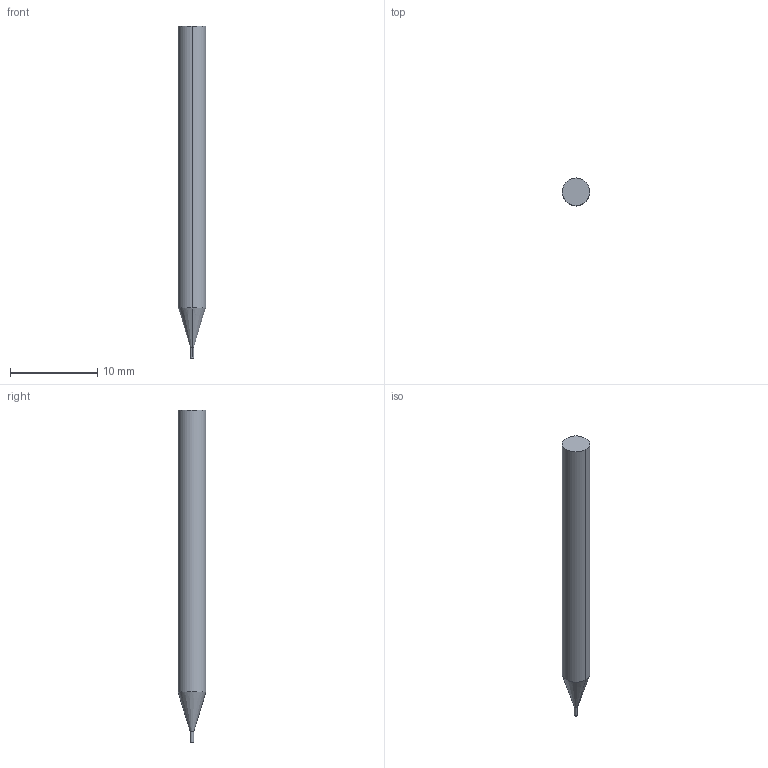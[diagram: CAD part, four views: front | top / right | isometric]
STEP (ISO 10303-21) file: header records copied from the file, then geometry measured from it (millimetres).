
FILE_DESCRIPTION((' '),'2;1');
FILE_NAME( '3MVR0156AH.stp', '2026-01-21T19:04:56', (' '), ('--- Datakit www.datakit.com---'), ' Datakit CrossCadWare V2025.4 Sep 19 2025', 'Mastercam 2027', ' ');
FILE_SCHEMA(('AUTOMOTIVE_DESIGN { 1 0 10303 214 1 1 1 1 }'));
Length unit declared in the file: inch
Products named in the file (1): 3MVR0156AH
Bounding box: 3.17 x 3.17 x 38.1 mm (x, y, z)
Volume: 270 mm3; surface area: 359 mm2
Topology: 1 solids, 1 shells, 8 faces, 14 edges, 8 vertices
Faces by surface type: cylinder 4, plane 2, cone 2
Entity records: 264 total; most frequent: DIRECTION 48, CARTESIAN_POINT 35, ORIENTED_EDGE 28, AXIS2_PLACEMENT_3D 21, EDGE_CURVE 14, VERTEX_POINT 8, CIRCLE 8, EDGE_LOOP 8
